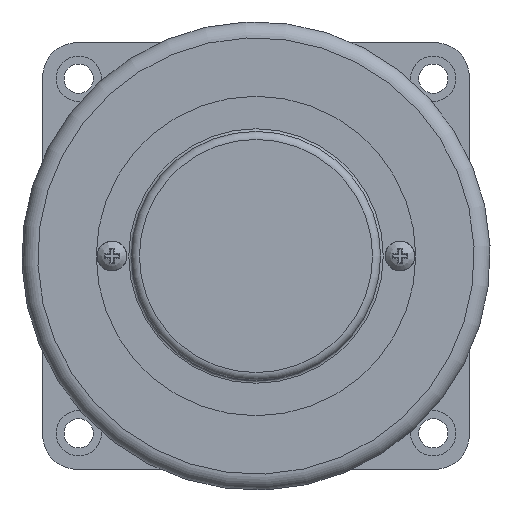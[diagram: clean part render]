
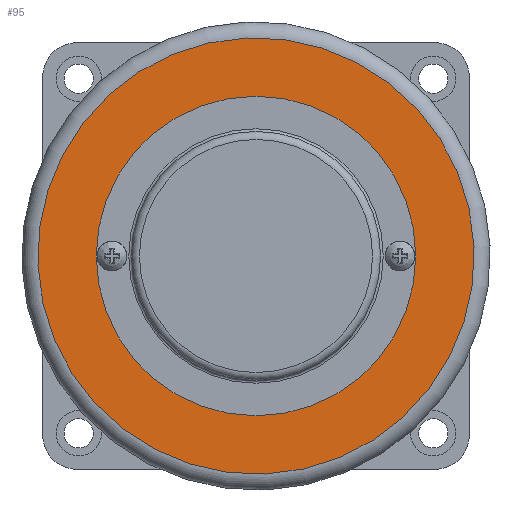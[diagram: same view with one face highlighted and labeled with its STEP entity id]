
A CAD part, left-side view. The second image highlights one B-rep face of the part: STEP entity #95.
In plain terms, the highlighted planar face has unit normal (-1, 0, 0).
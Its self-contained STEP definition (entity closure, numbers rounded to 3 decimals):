
#68=CARTESIAN_POINT('',(-38.5,0.,0.));
#69=DIRECTION('',(-1.0,0.0,0.0));
#70=DIRECTION('',(0.0,0.999,-0.043));
#71=AXIS2_PLACEMENT_3D('',#68,#69,#70);
#72=PLANE('',#71);
#73=CARTESIAN_POINT('',(-38.5,-40.861,1.777));
#74=VERTEX_POINT('',#73);
#75=CARTESIAN_POINT('',(-38.5,0.,0.));
#76=DIRECTION('',(1.0,0.,0.));
#77=DIRECTION('',(0.,0.999,-0.043));
#78=AXIS2_PLACEMENT_3D('',#75,#76,#77);
#79=CIRCLE('',#78,40.9);
#80=EDGE_CURVE('',#74,#74,#79,.T.);
#81=ORIENTED_EDGE('',*,*,#80,.F.);
#82=EDGE_LOOP('',(#81));
#83=FACE_OUTER_BOUND('',#82,.T.);
#84=CARTESIAN_POINT('',(-38.5,-29.95,0.));
#85=VERTEX_POINT('',#84);
#86=CARTESIAN_POINT('',(-38.5,0.,0.));
#87=DIRECTION('',(-1.0,0.0,0.0));
#88=DIRECTION('',(0.0,1.0,0.0));
#89=AXIS2_PLACEMENT_3D('',#86,#87,#88);
#90=CIRCLE('',#89,29.95);
#91=EDGE_CURVE('',#85,#85,#90,.T.);
#92=ORIENTED_EDGE('',*,*,#91,.F.);
#93=EDGE_LOOP('',(#92));
#94=FACE_BOUND('',#93,.T.);
#95=ADVANCED_FACE('',(#83,#94),#72,.T.);
